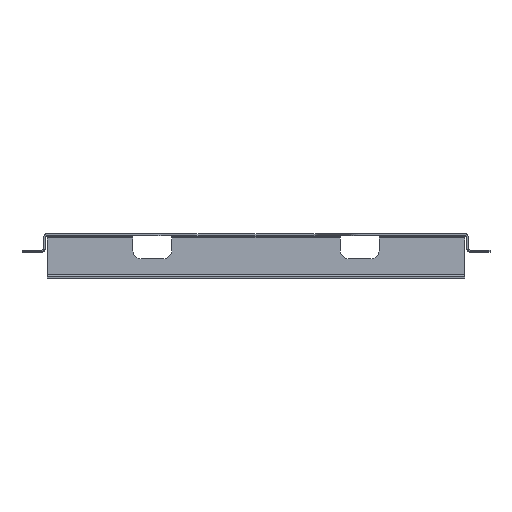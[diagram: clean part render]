
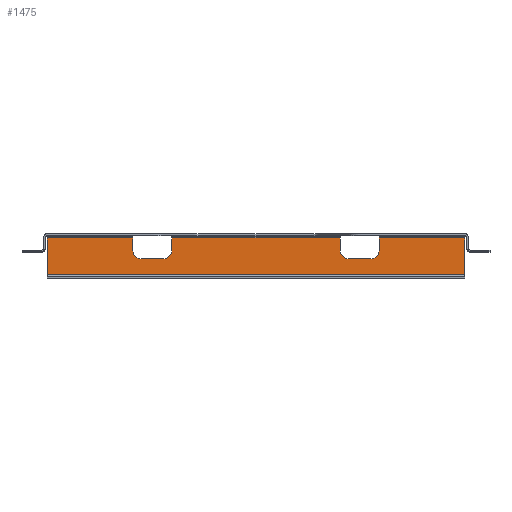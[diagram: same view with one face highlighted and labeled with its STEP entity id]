
A CAD part, top view. The second image highlights one B-rep face of the part: STEP entity #1475.
In plain terms, the highlighted planar face has unit normal (0, 0, 1).
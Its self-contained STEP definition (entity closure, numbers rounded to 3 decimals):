
#7 = DIRECTION ( 'NONE',  ( 0., 1., 0. ) ) ;
#27 = CARTESIAN_POINT ( 'NONE',  ( -88.75, -12.75, -108.6 ) ) ;
#38 = DIRECTION ( 'NONE',  ( 0., -1., 0. ) ) ;
#45 = EDGE_CURVE ( 'NONE', #2051, #1166, #1883, .T. ) ;
#70 = ORIENTED_EDGE ( 'NONE', *, *, #997, .F. ) ;
#77 = EDGE_CURVE ( 'NONE', #2636, #1166, #1643, .T. ) ;
#84 = ORIENTED_EDGE ( 'NONE', *, *, #374, .F. ) ;
#91 = DIRECTION ( 'NONE',  ( 1., 0., 0. ) ) ;
#150 = CARTESIAN_POINT ( 'NONE',  ( -65., -2.9, -108.6 ) ) ;
#193 = DIRECTION ( 'NONE',  ( 1., 0., 0. ) ) ;
#200 = CARTESIAN_POINT ( 'NONE',  ( 161.1, -1.4, -108.6 ) ) ;
#219 = DIRECTION ( 'NONE',  ( 0., 0., -1. ) ) ;
#221 = CARTESIAN_POINT ( 'NONE',  ( -65., -12.75, -108.6 ) ) ;
#222 = VERTEX_POINT ( 'NONE', #1933 ) ;
#225 = CARTESIAN_POINT ( 'NONE',  ( 65., -12.75, -108.6 ) ) ;
#227 = EDGE_CURVE ( 'NONE', #981, #2554, #2202, .T. ) ;
#237 = DIRECTION ( 'NONE',  ( 0., -1., 0. ) ) ;
#283 = ORIENTED_EDGE ( 'NONE', *, *, #1571, .F. ) ;
#308 = ORIENTED_EDGE ( 'NONE', *, *, #1656, .F. ) ;
#351 = VECTOR ( 'NONE', #1235, 1000. ) ;
#358 = ORIENTED_EDGE ( 'NONE', *, *, #227, .T. ) ;
#374 = EDGE_CURVE ( 'NONE', #1019, #1941, #1880, .T. ) ;
#392 = ORIENTED_EDGE ( 'NONE', *, *, #1426, .T. ) ;
#410 = EDGE_LOOP ( 'NONE', ( #615, #540, #1403, #283, #698, #1358, #358, #70, #392, #1360, #84, #1087, #3179, #308, #1560, #2729 ) ) ;
#437 = LINE ( 'NONE', #2537, #2019 ) ;
#474 = VECTOR ( 'NONE', #237, 1000. ) ;
#476 = CARTESIAN_POINT ( 'NONE',  ( 71.25, -12.75, -108.6 ) ) ;
#481 = CARTESIAN_POINT ( 'NONE',  ( -95., -12.75, -108.6 ) ) ;
#499 = VERTEX_POINT ( 'NONE', #481 ) ;
#540 = ORIENTED_EDGE ( 'NONE', *, *, #3056, .T. ) ;
#595 = CARTESIAN_POINT ( 'NONE',  ( 161.1, -19., -108.6 ) ) ;
#615 = ORIENTED_EDGE ( 'NONE', *, *, #45, .F. ) ;
#683 = VECTOR ( 'NONE', #1642, 1000. ) ;
#698 = ORIENTED_EDGE ( 'NONE', *, *, #2543, .T. ) ;
#708 = VECTOR ( 'NONE', #193, 1000. ) ;
#767 = EDGE_CURVE ( 'NONE', #1047, #903, #2007, .T. ) ;
#770 = LINE ( 'NONE', #1333, #1042 ) ;
#772 = LINE ( 'NONE', #2197, #683 ) ;
#780 = DIRECTION ( 'NONE',  ( 0., 1., 0. ) ) ;
#841 = CARTESIAN_POINT ( 'NONE',  ( 65., -1.4, -108.6 ) ) ;
#852 = CARTESIAN_POINT ( 'NONE',  ( -161.1, -2.9, -108.6 ) ) ;
#857 = LINE ( 'NONE', #852, #1943 ) ;
#903 = VERTEX_POINT ( 'NONE', #1859 ) ;
#918 = CARTESIAN_POINT ( 'NONE',  ( -161.1, -2.9, -108.6 ) ) ;
#942 = AXIS2_PLACEMENT_3D ( 'NONE', #27, #1505, #7 ) ;
#981 = VERTEX_POINT ( 'NONE', #2160 ) ;
#997 = EDGE_CURVE ( 'NONE', #2496, #2554, #2896, .T. ) ;
#1001 = CARTESIAN_POINT ( 'NONE',  ( -161.1, -2.9, -108.6 ) ) ;
#1017 = AXIS2_PLACEMENT_3D ( 'NONE', #2665, #1170, #2673 ) ;
#1019 = VERTEX_POINT ( 'NONE', #3162 ) ;
#1026 = CARTESIAN_POINT ( 'NONE',  ( -161.1, -31.1, -108.6 ) ) ;
#1042 = VECTOR ( 'NONE', #38, 1000. ) ;
#1047 = VERTEX_POINT ( 'NONE', #225 ) ;
#1080 = VECTOR ( 'NONE', #2221, 1000. ) ;
#1087 = ORIENTED_EDGE ( 'NONE', *, *, #3019, .T. ) ;
#1122 = DIRECTION ( 'NONE',  ( 1., 0., 0. ) ) ;
#1140 = CARTESIAN_POINT ( 'NONE',  ( 161.1, -31.1, -108.6 ) ) ;
#1166 = VERTEX_POINT ( 'NONE', #1725 ) ;
#1170 = DIRECTION ( 'NONE',  ( 0., 0., -1. ) ) ;
#1173 = AXIS2_PLACEMENT_3D ( 'NONE', #476, #219, #780 ) ;
#1233 = CARTESIAN_POINT ( 'NONE',  ( 88.75, -19., -108.6 ) ) ;
#1235 = DIRECTION ( 'NONE',  ( 0., 1., 0. ) ) ;
#1240 = PLANE ( 'NONE',  #2085 ) ;
#1259 = CARTESIAN_POINT ( 'NONE',  ( -88.75, -19., -108.6 ) ) ;
#1271 = CARTESIAN_POINT ( 'NONE',  ( 95., -1.4, -108.6 ) ) ;
#1333 = CARTESIAN_POINT ( 'NONE',  ( -65., -1.4, -108.6 ) ) ;
#1357 = CARTESIAN_POINT ( 'NONE',  ( 161.1, -19., -108.6 ) ) ;
#1358 = ORIENTED_EDGE ( 'NONE', *, *, #2811, .F. ) ;
#1359 = DIRECTION ( 'NONE',  ( 1., 0., 0. ) ) ;
#1360 = ORIENTED_EDGE ( 'NONE', *, *, #1952, .T. ) ;
#1403 = ORIENTED_EDGE ( 'NONE', *, *, #2522, .T. ) ;
#1426 = EDGE_CURVE ( 'NONE', #2496, #3064, #2131, .T. ) ;
#1452 = CARTESIAN_POINT ( 'NONE',  ( 161.1, -2.9, -108.6 ) ) ;
#1454 = VECTOR ( 'NONE', #91, 1000. ) ;
#1465 = VERTEX_POINT ( 'NONE', #1026 ) ;
#1475 = ADVANCED_FACE ( 'NONE', ( #2397 ), #1240, .F. ) ;
#1505 = DIRECTION ( 'NONE',  ( 0., 0., -1. ) ) ;
#1533 = EDGE_CURVE ( 'NONE', #2790, #2636, #770, .T. ) ;
#1547 = VECTOR ( 'NONE', #3155, 1000. ) ;
#1560 = ORIENTED_EDGE ( 'NONE', *, *, #1533, .T. ) ;
#1571 = EDGE_CURVE ( 'NONE', #2110, #222, #437, .T. ) ;
#1621 = LINE ( 'NONE', #1140, #1547 ) ;
#1641 = VECTOR ( 'NONE', #3044, 1000. ) ;
#1642 = DIRECTION ( 'NONE',  ( 0., 1., 0. ) ) ;
#1643 = CIRCLE ( 'NONE', #1017, 6.25 ) ;
#1656 = EDGE_CURVE ( 'NONE', #2790, #903, #857, .T. ) ;
#1667 = CARTESIAN_POINT ( 'NONE',  ( 95., -2.9, -108.6 ) ) ;
#1678 = CARTESIAN_POINT ( 'NONE',  ( 88.75, -12.75, -108.6 ) ) ;
#1725 = CARTESIAN_POINT ( 'NONE',  ( -71.25, -19., -108.6 ) ) ;
#1726 = CARTESIAN_POINT ( 'NONE',  ( 161.1, -1.4, -108.6 ) ) ;
#1800 = VECTOR ( 'NONE', #1122, 1000. ) ;
#1859 = CARTESIAN_POINT ( 'NONE',  ( 65., -2.9, -108.6 ) ) ;
#1880 = LINE ( 'NONE', #1357, #1454 ) ;
#1883 = LINE ( 'NONE', #595, #1800 ) ;
#1933 = CARTESIAN_POINT ( 'NONE',  ( -95., -2.9, -108.6 ) ) ;
#1939 = CIRCLE ( 'NONE', #2414, 6.25 ) ;
#1941 = VERTEX_POINT ( 'NONE', #1233 ) ;
#1943 = VECTOR ( 'NONE', #1359, 1000. ) ;
#1952 = EDGE_CURVE ( 'NONE', #3064, #1941, #1939, .T. ) ;
#1986 = DIRECTION ( 'NONE',  ( 0., 1., 0. ) ) ;
#2007 = LINE ( 'NONE', #841, #1641 ) ;
#2019 = VECTOR ( 'NONE', #3030, 1000. ) ;
#2051 = VERTEX_POINT ( 'NONE', #1259 ) ;
#2085 = AXIS2_PLACEMENT_3D ( 'NONE', #1726, #2986, #2260 ) ;
#2110 = VERTEX_POINT ( 'NONE', #1001 ) ;
#2131 = LINE ( 'NONE', #1271, #474 ) ;
#2160 = CARTESIAN_POINT ( 'NONE',  ( 161.1, -31.1, -108.6 ) ) ;
#2197 = CARTESIAN_POINT ( 'NONE',  ( -95., -1.4, -108.6 ) ) ;
#2202 = LINE ( 'NONE', #200, #351 ) ;
#2221 = DIRECTION ( 'NONE',  ( 0., -1., 0. ) ) ;
#2234 = DIRECTION ( 'NONE',  ( 0., 0., -1. ) ) ;
#2260 = DIRECTION ( 'NONE',  ( 0., 1., 0. ) ) ;
#2397 = FACE_OUTER_BOUND ( 'NONE', #410, .T. ) ;
#2414 = AXIS2_PLACEMENT_3D ( 'NONE', #1678, #2234, #1986 ) ;
#2494 = CARTESIAN_POINT ( 'NONE',  ( -161.1, -1.4, -108.6 ) ) ;
#2496 = VERTEX_POINT ( 'NONE', #1667 ) ;
#2522 = EDGE_CURVE ( 'NONE', #499, #222, #772, .T. ) ;
#2537 = CARTESIAN_POINT ( 'NONE',  ( -161.1, -2.9, -108.6 ) ) ;
#2543 = EDGE_CURVE ( 'NONE', #2110, #1465, #2993, .T. ) ;
#2554 = VERTEX_POINT ( 'NONE', #1452 ) ;
#2606 = CIRCLE ( 'NONE', #1173, 6.25 ) ;
#2636 = VERTEX_POINT ( 'NONE', #221 ) ;
#2665 = CARTESIAN_POINT ( 'NONE',  ( -71.25, -12.75, -108.6 ) ) ;
#2673 = DIRECTION ( 'NONE',  ( 0., 1., 0. ) ) ;
#2729 = ORIENTED_EDGE ( 'NONE', *, *, #77, .T. ) ;
#2790 = VERTEX_POINT ( 'NONE', #150 ) ;
#2811 = EDGE_CURVE ( 'NONE', #981, #1465, #1621, .T. ) ;
#2896 = LINE ( 'NONE', #918, #708 ) ;
#2986 = DIRECTION ( 'NONE',  ( 0., 0., -1. ) ) ;
#2990 = CIRCLE ( 'NONE', #942, 6.25 ) ;
#2993 = LINE ( 'NONE', #2494, #1080 ) ;
#3011 = CARTESIAN_POINT ( 'NONE',  ( 95., -12.75, -108.6 ) ) ;
#3019 = EDGE_CURVE ( 'NONE', #1019, #1047, #2606, .T. ) ;
#3030 = DIRECTION ( 'NONE',  ( 1., 0., 0. ) ) ;
#3044 = DIRECTION ( 'NONE',  ( 0., 1., 0. ) ) ;
#3056 = EDGE_CURVE ( 'NONE', #2051, #499, #2990, .T. ) ;
#3064 = VERTEX_POINT ( 'NONE', #3011 ) ;
#3155 = DIRECTION ( 'NONE',  ( -1., 0., 0. ) ) ;
#3162 = CARTESIAN_POINT ( 'NONE',  ( 71.25, -19., -108.6 ) ) ;
#3179 = ORIENTED_EDGE ( 'NONE', *, *, #767, .T. ) ;
